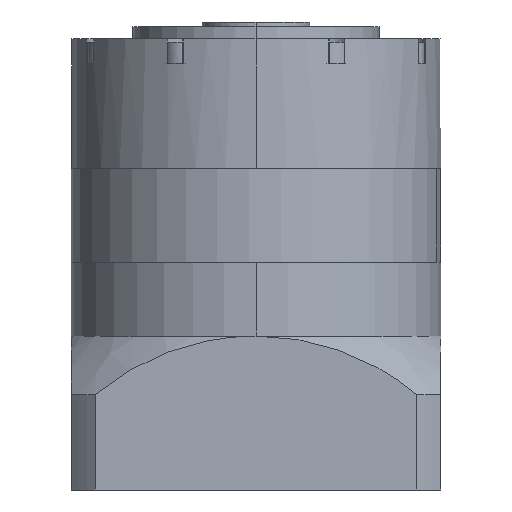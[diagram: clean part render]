
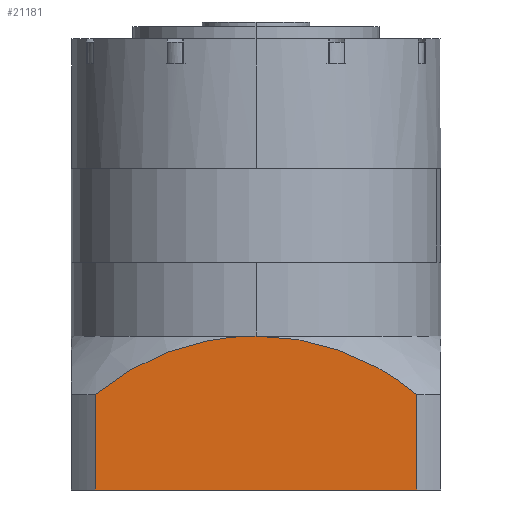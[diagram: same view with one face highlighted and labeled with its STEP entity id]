
A CAD part, left-side view. The second image highlights one B-rep face of the part: STEP entity #21181.
In plain terms, the highlighted planar face has unit normal (-1, 0, 0) as drawn and (0, -1, 0) by its records, which use the part's own axes.
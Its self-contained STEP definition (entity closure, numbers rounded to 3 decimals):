
#420 = CARTESIAN_POINT ( 'NONE',  ( 19.894, -60., -5.464 ) ) ;
#710 = B_SPLINE_CURVE_WITH_KNOTS ( 'NONE', 3,
 ( #9630, #27632, #34630, #15952, #37756, #19134, #420, #22306, #3546, #25428, #6675, #28566, #9767, #31688, #12907, #34764, #16088, #37889 ),
 .UNSPECIFIED., .F., .F.,
 ( 4, 2, 2, 2, 2, 2, 2, 2, 4 ),
 ( 0., 0.014, 0.018, 0.021, 0.028, 0.042, 0.046, 0.05, 0.057 ),
 .UNSPECIFIED. ) ;
#1283 = CARTESIAN_POINT ( 'NONE',  ( 52.156, -60., -22. ) ) ;
#1299 = CARTESIAN_POINT ( 'NONE',  ( 52.156, -60., -53. ) ) ;
#1378 = VERTEX_POINT ( 'NONE', #1283 ) ;
#1407 = CARTESIAN_POINT ( 'NONE',  ( -29.939, -60., -8.683 ) ) ;
#2304 = ORIENTED_EDGE ( 'NONE', *, *, #4812, .T. ) ;
#3546 = CARTESIAN_POINT ( 'NONE',  ( 25.577, -60., -7.096 ) ) ;
#3998 = CARTESIAN_POINT ( 'NONE',  ( -52.156, -60., -53. ) ) ;
#4201 = ORIENTED_EDGE ( 'NONE', *, *, #9835, .T. ) ;
#4336 = EDGE_CURVE ( 'NONE', #38770, #13032, #37124, .T. ) ;
#4528 = CARTESIAN_POINT ( 'NONE',  ( -18.792, -60., -5.062 ) ) ;
#4812 = EDGE_CURVE ( 'NONE', #38770, #26891, #19679, .T. ) ;
#5145 = DIRECTION ( 'NONE',  ( 0., 0., 1. ) ) ;
#5180 = FACE_OUTER_BOUND ( 'NONE', #6209, .T. ) ;
#6209 = EDGE_LOOP ( 'NONE', ( #25672, #2304, #4201, #13291, #22422 ) ) ;
#6675 = CARTESIAN_POINT ( 'NONE',  ( 36.444, -60., -11.486 ) ) ;
#7502 = CARTESIAN_POINT ( 'NONE',  ( -48.52, -60., -18.938 ) ) ;
#7631 = CARTESIAN_POINT ( 'NONE',  ( -11.825, -60., -3.856 ) ) ;
#9630 = CARTESIAN_POINT ( 'NONE',  ( 0., -60., -3. ) ) ;
#9767 = CARTESIAN_POINT ( 'NONE',  ( 42.555, -60., -15.043 ) ) ;
#9835 = EDGE_CURVE ( 'NONE', #26891, #1378, #14328, .T. ) ;
#10739 = CARTESIAN_POINT ( 'NONE',  ( -8.294, -60., -3.416 ) ) ;
#11501 = DIRECTION ( 'NONE',  ( 0., 0., 1. ) ) ;
#12907 = CARTESIAN_POINT ( 'NONE',  ( 45.542, -60., -16.978 ) ) ;
#13032 = VERTEX_POINT ( 'NONE', #27661 ) ;
#13291 = ORIENTED_EDGE ( 'NONE', *, *, #18757, .F. ) ;
#13759 = CARTESIAN_POINT ( 'NONE',  ( -39.546, -60., -13.276 ) ) ;
#13893 = CARTESIAN_POINT ( 'NONE',  ( -2.376, -60., -3. ) ) ;
#14328 = LINE ( 'NONE', #30311, #29087 ) ;
#14577 = AXIS2_PLACEMENT_3D ( 'NONE', #35790, #38921, #20310 ) ;
#14839 = CARTESIAN_POINT ( 'NONE',  ( -52.156, -60., 0. ) ) ;
#15952 = CARTESIAN_POINT ( 'NONE',  ( 15.267, -60., -4.438 ) ) ;
#16088 = CARTESIAN_POINT ( 'NONE',  ( 50.338, -60., -20.469 ) ) ;
#16976 = CARTESIAN_POINT ( 'NONE',  ( -36.409, -60., -11.613 ) ) ;
#17158 = PLANE ( 'NONE',  #14577 ) ;
#18662 = VECTOR ( 'NONE', #39499, 1000. ) ;
#18757 = EDGE_CURVE ( 'NONE', #37300, #1378, #710, .T. ) ;
#19134 = CARTESIAN_POINT ( 'NONE',  ( 18.739, -60., -5.181 ) ) ;
#19679 = LINE ( 'NONE', #24608, #18662 ) ;
#20131 = CARTESIAN_POINT ( 'NONE',  ( -32.118, -60., -9.584 ) ) ;
#20310 = DIRECTION ( 'NONE',  ( 0., 0., -1. ) ) ;
#21181 = ADVANCED_FACE ( 'NONE', ( #5180 ), #17158, .T. ) ;
#22306 = CARTESIAN_POINT ( 'NONE',  ( 23.329, -60., -6.386 ) ) ;
#22422 = ORIENTED_EDGE ( 'NONE', *, *, #38831, .F. ) ;
#23296 = CARTESIAN_POINT ( 'NONE',  ( -23.319, -60., -6.277 ) ) ;
#24608 = CARTESIAN_POINT ( 'NONE',  ( -60., -60., -53. ) ) ;
#25428 = CARTESIAN_POINT ( 'NONE',  ( 32.196, -60., -9.507 ) ) ;
#25672 = ORIENTED_EDGE ( 'NONE', *, *, #4336, .F. ) ;
#26437 = CARTESIAN_POINT ( 'NONE',  ( -12.993, -60., -4.037 ) ) ;
#26891 = VERTEX_POINT ( 'NONE', #1299 ) ;
#27632 = CARTESIAN_POINT ( 'NONE',  ( 4.753, -60., -3. ) ) ;
#27661 = CARTESIAN_POINT ( 'NONE',  ( -52.156, -60., -22. ) ) ;
#28566 = CARTESIAN_POINT ( 'NONE',  ( 41.545, -60., -14.431 ) ) ;
#28929 = VECTOR ( 'NONE', #11501, 1000. ) ;
#29087 = VECTOR ( 'NONE', #5145, 1000. ) ;
#29417 = CARTESIAN_POINT ( 'NONE',  ( -52.156, -60., -22. ) ) ;
#29557 = CARTESIAN_POINT ( 'NONE',  ( -9.477, -60., -3.546 ) ) ;
#29684 = CARTESIAN_POINT ( 'NONE',  ( 0., -60., -3. ) ) ;
#30311 = CARTESIAN_POINT ( 'NONE',  ( 52.156, -60., -53. ) ) ;
#31688 = CARTESIAN_POINT ( 'NONE',  ( 44.553, -60., -16.317 ) ) ;
#32527 = CARTESIAN_POINT ( 'NONE',  ( -44.656, -60., -16.23 ) ) ;
#32658 = CARTESIAN_POINT ( 'NONE',  ( -4.747, -60., -3.104 ) ) ;
#32720 = B_SPLINE_CURVE_WITH_KNOTS ( 'NONE', 3,
 ( #29417, #7502, #32527, #13759, #35613, #16976, #38747, #20131, #1407, #23296, #4528, #26437, #7631, #29557, #10739, #32658, #13893, #35746 ),
 .UNSPECIFIED., .F., .F.,
 ( 4, 2, 2, 2, 2, 2, 2, 2, 4 ),
 ( 0., 0.014, 0.018, 0.021, 0.028, 0.042, 0.046, 0.05, 0.057 ),
 .UNSPECIFIED. ) ;
#34630 = CARTESIAN_POINT ( 'NONE',  ( 9.454, -60., -3.414 ) ) ;
#34764 = CARTESIAN_POINT ( 'NONE',  ( 48.457, -60., -19.022 ) ) ;
#35613 = CARTESIAN_POINT ( 'NONE',  ( -38.51, -60., -12.707 ) ) ;
#35746 = CARTESIAN_POINT ( 'NONE',  ( 0., -60., -3. ) ) ;
#35790 = CARTESIAN_POINT ( 'NONE',  ( -60., -60., -53. ) ) ;
#37124 = LINE ( 'NONE', #14839, #28929 ) ;
#37300 = VERTEX_POINT ( 'NONE', #29684 ) ;
#37756 = CARTESIAN_POINT ( 'NONE',  ( 16.426, -60., -4.669 ) ) ;
#37889 = CARTESIAN_POINT ( 'NONE',  ( 52.156, -60., -22. ) ) ;
#38747 = CARTESIAN_POINT ( 'NONE',  ( -35.342, -60., -11.087 ) ) ;
#38770 = VERTEX_POINT ( 'NONE', #3998 ) ;
#38831 = EDGE_CURVE ( 'NONE', #13032, #37300, #32720, .T. ) ;
#38921 = DIRECTION ( 'NONE',  ( 0., -1., 0. ) ) ;
#39499 = DIRECTION ( 'NONE',  ( 1., 0., 0. ) ) ;
